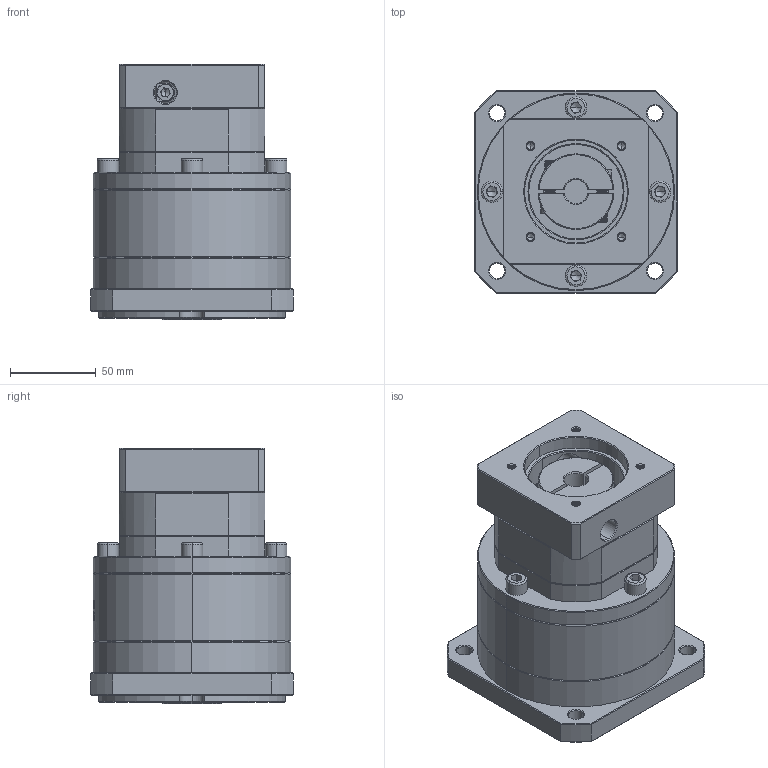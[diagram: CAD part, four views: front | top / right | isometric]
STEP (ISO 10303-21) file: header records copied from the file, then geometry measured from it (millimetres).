
FILE_DESCRIPTION (( 'STEP AP214' ), '1' );
FILE_NAME ('ZF120A-K25-L2-P2-14-60-75-M5.step', '2023-08-27T06:01:42', ( '' ), ( '' ), 'SwSTEP 2.0', 'SolidWorks 2016', '' );
FILE_SCHEMA (( 'AUTOMOTIVE_DESIGN' ));
Length unit declared in the file: millimetre
Products named in the file (1): ZF120A-K25-L2-P2-14-60-75-M5
Bounding box: 118 x 118 x 149 mm (x, y, z)
Volume: 1243819.4 mm3; surface area: 124637.2 mm2
Topology: 5 solids, 6 shells, 2160 faces, 5740 edges, 3679 vertices
Faces by surface type: plane 1053, bspline 410, cylinder 369, cone 313, torus 15
Entity records: 115813 total; most frequent: CARTESIAN_POINT 43600, ORIENTED_EDGE 11424, DIRECTION 8257, EDGE_CURVE 5712, VERTEX_POINT 3679, VECTOR 3049, LINE 3049, AXIS2_PLACEMENT_3D 2604
